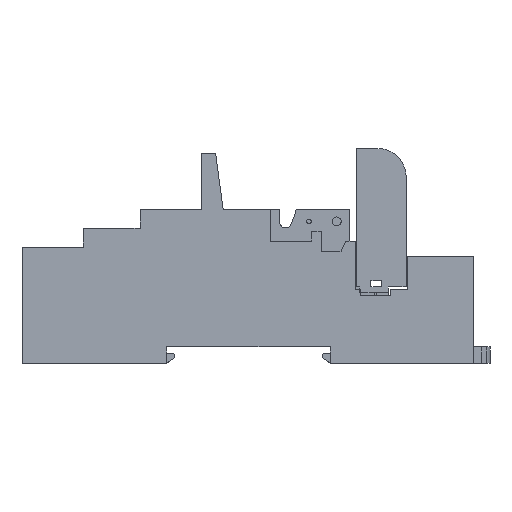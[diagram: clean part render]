
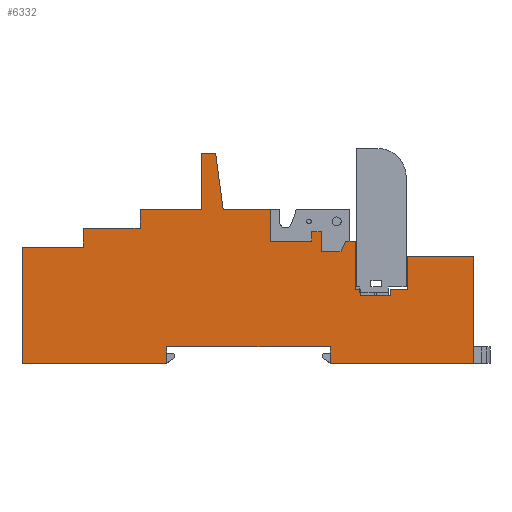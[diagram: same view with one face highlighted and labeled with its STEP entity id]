
A CAD part, top view. The second image highlights one B-rep face of the part: STEP entity #6332.
In plain terms, the highlighted planar face has unit normal (0, 0, 1).
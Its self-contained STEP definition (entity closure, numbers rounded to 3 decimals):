
#2=DIRECTION('',(1.,0.,0.));
#3=VECTOR('',#2,4.2);
#4=CARTESIAN_POINT('',(15.55,-20.9,0.));
#5=LINE('',#4,#3);
#6=DIRECTION('',(0.399,0.917,0.));
#7=VECTOR('',#6,2.508);
#8=CARTESIAN_POINT('',(19.75,-20.9,0.));
#9=LINE('',#8,#7);
#10=DIRECTION('',(1.,0.,0.));
#11=VECTOR('',#10,1.);
#12=CARTESIAN_POINT('',(22.8,-28.9,0.));
#13=LINE('',#12,#11);
#14=DIRECTION('',(0.,-1.,0.));
#15=VECTOR('',#14,1.3);
#16=CARTESIAN_POINT('',(23.8,-28.9,0.));
#17=LINE('',#16,#15);
#18=DIRECTION('',(1.,0.,0.));
#19=VECTOR('',#18,6.4);
#20=CARTESIAN_POINT('',(23.8,-30.2,0.));
#21=LINE('',#20,#19);
#22=DIRECTION('',(0.,1.,0.));
#23=VECTOR('',#22,1.3);
#24=CARTESIAN_POINT('',(30.2,-30.2,0.));
#25=LINE('',#24,#23);
#26=DIRECTION('',(1.,0.,0.));
#27=VECTOR('',#26,3.6);
#28=CARTESIAN_POINT('',(30.2,-28.9,0.));
#29=LINE('',#28,#27);
#30=DIRECTION('',(0.,1.,0.));
#31=VECTOR('',#30,7.);
#32=CARTESIAN_POINT('',(33.8,-28.9,0.));
#33=LINE('',#32,#31);
#34=DIRECTION('',(-1.,0.,0.));
#35=VECTOR('',#34,14.);
#36=CARTESIAN_POINT('',(47.8,-21.9,0.));
#37=LINE('',#36,#35);
#38=DIRECTION('',(-1.,0.,0.));
#39=VECTOR('',#38,34.7);
#40=CARTESIAN_POINT('',(17.5,-41.,0.));
#41=LINE('',#40,#39);
#42=DIRECTION('',(1.,0.,0.));
#43=VECTOR('',#42,30.6);
#44=CARTESIAN_POINT('',(-47.8,-44.5,0.));
#45=LINE('',#44,#43);
#46=DIRECTION('',(0.,-1.,0.));
#47=VECTOR('',#46,24.6);
#48=CARTESIAN_POINT('',(-47.8,-19.9,0.));
#49=LINE('',#48,#47);
#50=DIRECTION('',(1.,0.,0.));
#51=VECTOR('',#50,13.);
#52=CARTESIAN_POINT('',(-47.8,-19.9,0.));
#53=LINE('',#52,#51);
#54=DIRECTION('',(0.,1.,0.));
#55=VECTOR('',#54,4.);
#56=CARTESIAN_POINT('',(-34.8,-19.9,0.));
#57=LINE('',#56,#55);
#58=DIRECTION('',(1.,0.,0.));
#59=VECTOR('',#58,12.);
#60=CARTESIAN_POINT('',(-34.8,-15.9,0.));
#61=LINE('',#60,#59);
#62=DIRECTION('',(0.,1.,0.));
#63=VECTOR('',#62,4.);
#64=CARTESIAN_POINT('',(-22.8,-15.9,0.));
#65=LINE('',#64,#63);
#66=DIRECTION('',(1.,0.,0.));
#67=VECTOR('',#66,13.);
#68=CARTESIAN_POINT('',(-22.8,-11.9,0.));
#69=LINE('',#68,#67);
#70=DIRECTION('',(0.,-1.,0.));
#71=VECTOR('',#70,11.9);
#72=CARTESIAN_POINT('',(-9.8,0.,0.));
#73=LINE('',#72,#71);
#74=DIRECTION('',(-1.,0.,0.));
#75=VECTOR('',#74,3.);
#76=CARTESIAN_POINT('',(-6.8,0.,0.));
#77=LINE('',#76,#75);
#78=DIRECTION('',(0.132,-0.991,0.));
#79=VECTOR('',#78,12.106);
#80=CARTESIAN_POINT('',(-6.8,0.,0.));
#81=LINE('',#80,#79);
#82=DIRECTION('',(-1.,0.,0.));
#83=VECTOR('',#82,9.95);
#84=CARTESIAN_POINT('',(4.75,-12.,0.));
#85=LINE('',#84,#83);
#86=DIRECTION('',(0.,-1.,0.));
#87=VECTOR('',#86,6.6);
#88=CARTESIAN_POINT('',(4.75,-12.,0.));
#89=LINE('',#88,#87);
#90=DIRECTION('',(0.,-1.,0.));
#91=VECTOR('',#90,2.);
#92=CARTESIAN_POINT('',(13.55,-16.6,0.));
#93=LINE('',#92,#91);
#94=DIRECTION('',(-1.,0.,0.));
#95=VECTOR('',#94,2.);
#96=CARTESIAN_POINT('',(15.55,-16.6,0.));
#97=LINE('',#96,#95);
#102=DIRECTION('',(0.,1.,0.));
#103=VECTOR('',#102,4.3);
#104=CARTESIAN_POINT('',(15.55,-20.9,0.));
#105=LINE('',#104,#103);
#158=DIRECTION('',(-1.,0.,0.));
#159=VECTOR('',#158,8.8);
#160=CARTESIAN_POINT('',(13.55,-18.6,0.));
#161=LINE('',#160,#159);
#186=DIRECTION('',(-1.,0.,0.));
#187=VECTOR('',#186,2.05);
#188=CARTESIAN_POINT('',(22.8,-18.6,0.));
#189=LINE('',#188,#187);
#1039=DIRECTION('',(1.,0.,0.));
#1040=VECTOR('',#1039,30.3);
#1041=CARTESIAN_POINT('',(17.5,-44.5,0.));
#1042=LINE('',#1041,#1040);
#1093=DIRECTION('',(0.,1.,0.));
#1094=VECTOR('',#1093,3.5);
#1095=CARTESIAN_POINT('',(-17.2,-44.5,0.));
#1096=LINE('',#1095,#1094);
#1137=DIRECTION('',(0.,-1.,0.));
#1138=VECTOR('',#1137,3.5);
#1139=CARTESIAN_POINT('',(17.5,-41.,0.));
#1140=LINE('',#1139,#1138);
#1356=DIRECTION('',(0.,1.,0.));
#1357=VECTOR('',#1356,22.6);
#1358=CARTESIAN_POINT('',(47.8,-44.5,0.));
#1359=LINE('',#1358,#1357);
#1771=DIRECTION('',(0.,1.,0.));
#1772=VECTOR('',#1771,10.3);
#1773=CARTESIAN_POINT('',(22.8,-28.9,0.));
#1774=LINE('',#1773,#1772);
#4759=CARTESIAN_POINT('',(-47.8,-44.5,0.));
#4761=VERTEX_POINT('',#4759);
#4763=CARTESIAN_POINT('',(-9.8,0.,0.));
#4764=CARTESIAN_POINT('',(-9.8,-11.9,0.));
#4765=VERTEX_POINT('',#4763);
#4766=VERTEX_POINT('',#4764);
#4771=CARTESIAN_POINT('',(-22.8,-15.9,0.));
#4772=CARTESIAN_POINT('',(-22.8,-11.9,0.));
#4773=VERTEX_POINT('',#4771);
#4774=VERTEX_POINT('',#4772);
#4779=CARTESIAN_POINT('',(-47.8,-19.9,0.));
#4780=CARTESIAN_POINT('',(-34.8,-19.9,0.));
#4781=VERTEX_POINT('',#4779);
#4782=VERTEX_POINT('',#4780);
#4783=CARTESIAN_POINT('',(-34.8,-15.9,0.));
#4784=VERTEX_POINT('',#4783);
#4791=CARTESIAN_POINT('',(-6.8,0.,0.));
#4792=CARTESIAN_POINT('',(-5.2,-12.,0.));
#4793=VERTEX_POINT('',#4791);
#4794=VERTEX_POINT('',#4792);
#4800=CARTESIAN_POINT('',(47.8,-21.9,0.));
#4802=VERTEX_POINT('',#4800);
#4805=CARTESIAN_POINT('',(33.8,-28.9,0.));
#4806=CARTESIAN_POINT('',(33.8,-21.9,0.));
#4807=VERTEX_POINT('',#4805);
#4808=VERTEX_POINT('',#4806);
#4817=CARTESIAN_POINT('',(22.8,-28.9,0.));
#4818=CARTESIAN_POINT('',(22.8,-18.6,0.));
#4819=VERTEX_POINT('',#4817);
#4820=VERTEX_POINT('',#4818);
#4821=CARTESIAN_POINT('',(23.8,-30.2,0.));
#4822=CARTESIAN_POINT('',(30.2,-30.2,0.));
#4823=VERTEX_POINT('',#4821);
#4824=VERTEX_POINT('',#4822);
#4825=CARTESIAN_POINT('',(30.2,-28.9,0.));
#4826=VERTEX_POINT('',#4825);
#4827=CARTESIAN_POINT('',(23.8,-28.9,0.));
#4828=VERTEX_POINT('',#4827);
#4995=CARTESIAN_POINT('',(17.5,-41.,0.));
#4996=CARTESIAN_POINT('',(-17.2,-41.,0.));
#4997=VERTEX_POINT('',#4995);
#4998=VERTEX_POINT('',#4996);
#5019=CARTESIAN_POINT('',(-17.2,-44.5,0.));
#5021=VERTEX_POINT('',#5019);
#5037=CARTESIAN_POINT('',(17.5,-44.5,0.));
#5039=VERTEX_POINT('',#5037);
#5051=CARTESIAN_POINT('',(47.8,-44.5,0.));
#5053=VERTEX_POINT('',#5051);
#5309=CARTESIAN_POINT('',(4.75,-12.,0.));
#5310=CARTESIAN_POINT('',(4.75,-18.6,0.));
#5311=VERTEX_POINT('',#5309);
#5312=VERTEX_POINT('',#5310);
#5349=CARTESIAN_POINT('',(15.55,-16.6,0.));
#5350=CARTESIAN_POINT('',(13.55,-16.6,0.));
#5351=VERTEX_POINT('',#5349);
#5352=VERTEX_POINT('',#5350);
#5353=CARTESIAN_POINT('',(13.55,-18.6,0.));
#5355=VERTEX_POINT('',#5353);
#5377=CARTESIAN_POINT('',(15.55,-20.9,0.));
#5378=CARTESIAN_POINT('',(19.75,-20.9,0.));
#5379=VERTEX_POINT('',#5377);
#5380=VERTEX_POINT('',#5378);
#5381=CARTESIAN_POINT('',(20.75,-18.6,0.));
#5382=VERTEX_POINT('',#5381);
#6261=CARTESIAN_POINT('',(0.,0.,0.));
#6262=DIRECTION('',(0.,0.,1.));
#6263=DIRECTION('',(1.,0.,0.));
#6264=AXIS2_PLACEMENT_3D('',#6261,#6262,#6263);
#6265=PLANE('',#6264);
#6267=ORIENTED_EDGE('',*,*,#6266,.F.);
#6269=ORIENTED_EDGE('',*,*,#6268,.T.);
#6271=ORIENTED_EDGE('',*,*,#6270,.T.);
#6273=ORIENTED_EDGE('',*,*,#6272,.F.);
#6275=ORIENTED_EDGE('',*,*,#6274,.F.);
#6277=ORIENTED_EDGE('',*,*,#6276,.T.);
#6279=ORIENTED_EDGE('',*,*,#6278,.T.);
#6281=ORIENTED_EDGE('',*,*,#6280,.T.);
#6283=ORIENTED_EDGE('',*,*,#6282,.T.);
#6285=ORIENTED_EDGE('',*,*,#6284,.T.);
#6287=ORIENTED_EDGE('',*,*,#6286,.T.);
#6289=ORIENTED_EDGE('',*,*,#6288,.F.);
#6291=ORIENTED_EDGE('',*,*,#6290,.F.);
#6293=ORIENTED_EDGE('',*,*,#6292,.F.);
#6295=ORIENTED_EDGE('',*,*,#6294,.F.);
#6297=ORIENTED_EDGE('',*,*,#6296,.T.);
#6299=ORIENTED_EDGE('',*,*,#6298,.F.);
#6301=ORIENTED_EDGE('',*,*,#6300,.F.);
#6303=ORIENTED_EDGE('',*,*,#6302,.F.);
#6305=ORIENTED_EDGE('',*,*,#6304,.T.);
#6307=ORIENTED_EDGE('',*,*,#6306,.T.);
#6309=ORIENTED_EDGE('',*,*,#6308,.T.);
#6311=ORIENTED_EDGE('',*,*,#6310,.T.);
#6313=ORIENTED_EDGE('',*,*,#6312,.T.);
#6315=ORIENTED_EDGE('',*,*,#6314,.F.);
#6317=ORIENTED_EDGE('',*,*,#6316,.F.);
#6319=ORIENTED_EDGE('',*,*,#6318,.T.);
#6321=ORIENTED_EDGE('',*,*,#6320,.F.);
#6323=ORIENTED_EDGE('',*,*,#6322,.T.);
#6325=ORIENTED_EDGE('',*,*,#6324,.F.);
#6327=ORIENTED_EDGE('',*,*,#6326,.F.);
#6329=ORIENTED_EDGE('',*,*,#6328,.F.);
#6330=EDGE_LOOP('',(#6267,#6269,#6271,#6273,#6275,#6277,#6279,#6281,#6283,#6285,
#6287,#6289,#6291,#6293,#6295,#6297,#6299,#6301,#6303,#6305,#6307,#6309,#6311,
#6313,#6315,#6317,#6319,#6321,#6323,#6325,#6327,#6329));
#6331=FACE_OUTER_BOUND('',#6330,.F.);
#6332=ADVANCED_FACE('',(#6331),#6265,.T.);
#6266=EDGE_CURVE('',#5379,#5351,#105,.T.);
#6268=EDGE_CURVE('',#5379,#5380,#5,.T.);
#6270=EDGE_CURVE('',#5380,#5382,#9,.T.);
#6272=EDGE_CURVE('',#4820,#5382,#189,.T.);
#6274=EDGE_CURVE('',#4819,#4820,#1774,.T.);
#6276=EDGE_CURVE('',#4819,#4828,#13,.T.);
#6278=EDGE_CURVE('',#4828,#4823,#17,.T.);
#6280=EDGE_CURVE('',#4823,#4824,#21,.T.);
#6282=EDGE_CURVE('',#4824,#4826,#25,.T.);
#6284=EDGE_CURVE('',#4826,#4807,#29,.T.);
#6286=EDGE_CURVE('',#4807,#4808,#33,.T.);
#6288=EDGE_CURVE('',#4802,#4808,#37,.T.);
#6290=EDGE_CURVE('',#5053,#4802,#1359,.T.);
#6292=EDGE_CURVE('',#5039,#5053,#1042,.T.);
#6294=EDGE_CURVE('',#4997,#5039,#1140,.T.);
#6296=EDGE_CURVE('',#4997,#4998,#41,.T.);
#6298=EDGE_CURVE('',#5021,#4998,#1096,.T.);
#6300=EDGE_CURVE('',#4761,#5021,#45,.T.);
#6302=EDGE_CURVE('',#4781,#4761,#49,.T.);
#6304=EDGE_CURVE('',#4781,#4782,#53,.T.);
#6306=EDGE_CURVE('',#4782,#4784,#57,.T.);
#6308=EDGE_CURVE('',#4784,#4773,#61,.T.);
#6310=EDGE_CURVE('',#4773,#4774,#65,.T.);
#6312=EDGE_CURVE('',#4774,#4766,#69,.T.);
#6314=EDGE_CURVE('',#4765,#4766,#73,.T.);
#6316=EDGE_CURVE('',#4793,#4765,#77,.T.);
#6318=EDGE_CURVE('',#4793,#4794,#81,.T.);
#6320=EDGE_CURVE('',#5311,#4794,#85,.T.);
#6322=EDGE_CURVE('',#5311,#5312,#89,.T.);
#6324=EDGE_CURVE('',#5355,#5312,#161,.T.);
#6326=EDGE_CURVE('',#5352,#5355,#93,.T.);
#6328=EDGE_CURVE('',#5351,#5352,#97,.T.);
